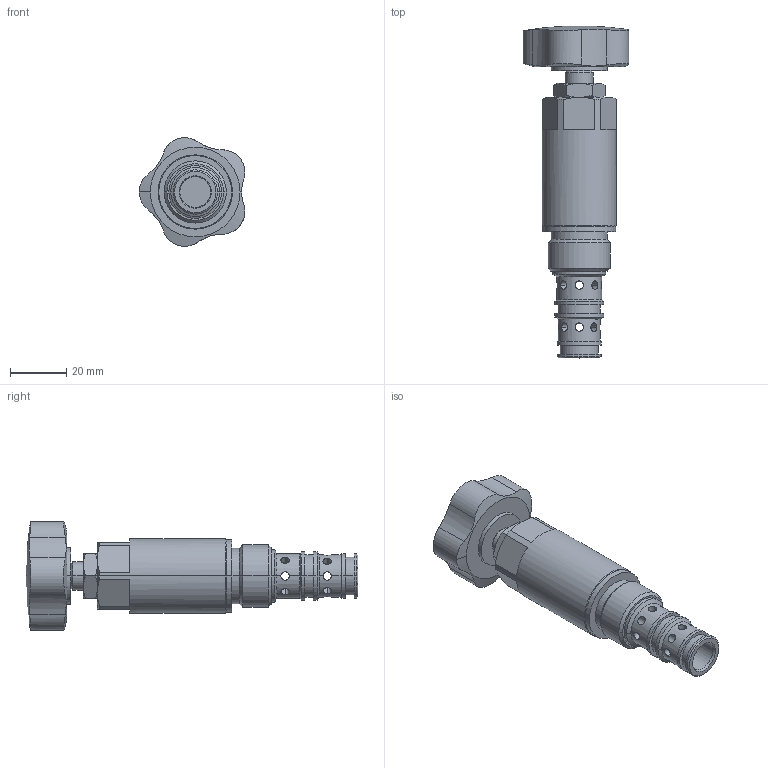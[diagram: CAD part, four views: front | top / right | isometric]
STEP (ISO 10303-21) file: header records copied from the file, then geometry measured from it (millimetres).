
FILE_DESCRIPTION((''),'2;1');
FILE_NAME('1000298921','2026-01-09T14:04:49',('l.soukupova'),(''),'CREO PARAMETRIC BY PTC INC, 2023254','CREO PARAMETRIC BY PTC INC, 2023254','');
FILE_SCHEMA(('AUTOMOTIVE_DESIGN { 1 0 10303 214 1 1 1 1 }'));
Length unit declared in the file: millimetre
Products named in the file (1): 1000298921
Bounding box: 37.71 x 118.5 x 38.81 mm (x, y, z)
Volume: 51808.7 mm3; surface area: 12890.4 mm2
Topology: 1 solids, 1 shells, 149 faces, 370 edges, 216 vertices
Faces by surface type: cylinder 74, cone 43, plane 30, sphere 2
Entity records: 8397 total; most frequent: CARTESIAN_POINT 3617, ORIENTED_EDGE 736, DIRECTION 643, PRESENTATION_STYLE_ASSIGNMENT 387, STYLED_ITEM 369, CURVE_STYLE 368, EDGE_CURVE 368, AXIS2_PLACEMENT_3D 258
